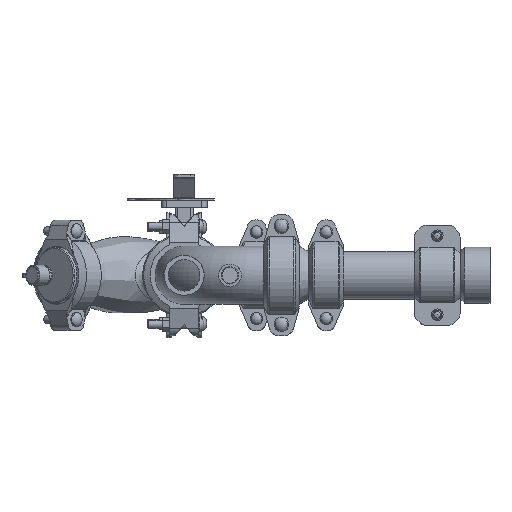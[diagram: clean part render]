
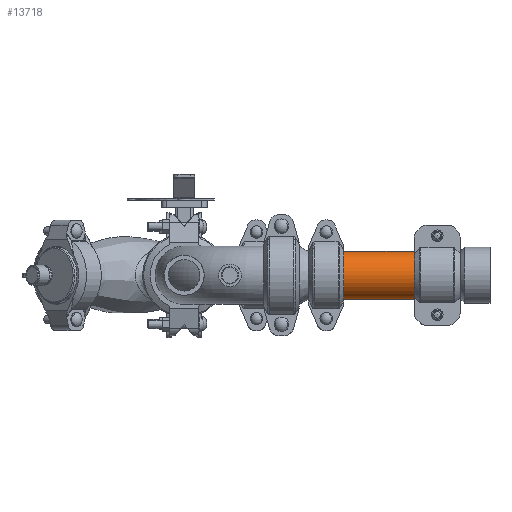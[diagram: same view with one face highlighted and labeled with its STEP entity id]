
A CAD part, front view. The second image highlights one B-rep face of the part: STEP entity #13718.
In plain terms, the highlighted cylindrical face has radius 36.513 mm (diameter 73.025 mm), a full revolution.
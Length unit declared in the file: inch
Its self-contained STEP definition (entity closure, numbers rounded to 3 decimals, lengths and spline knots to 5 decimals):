
#453=LINE('',#20739,#1441);
#1441=VECTOR('',#16501,1.4375);
#2429=CYLINDRICAL_SURFACE('',#14853,1.4375);
#2857=FACE_OUTER_BOUND('',#3601,.T.);
#3601=EDGE_LOOP('',(#8612,#8613,#8614,#8615,#8616,#8617));
#4505=CIRCLE('',#14851,1.4375);
#4506=CIRCLE('',#14852,1.4375);
#4507=CIRCLE('',#14854,1.4375);
#4508=CIRCLE('',#14855,1.4375);
#5279=VERTEX_POINT('',#20730);
#5280=VERTEX_POINT('',#20731);
#5281=VERTEX_POINT('',#20735);
#5282=VERTEX_POINT('',#20736);
#6619=EDGE_CURVE('',#5279,#5280,#4505,.T.);
#6620=EDGE_CURVE('',#5280,#5279,#4506,.T.);
#6621=EDGE_CURVE('',#5281,#5282,#4507,.T.);
#6622=EDGE_CURVE('',#5282,#5281,#4508,.T.);
#6623=EDGE_CURVE('',#5282,#5280,#453,.T.);
#8612=ORIENTED_EDGE('',*,*,#6621,.F.);
#8613=ORIENTED_EDGE('',*,*,#6622,.F.);
#8614=ORIENTED_EDGE('',*,*,#6623,.T.);
#8615=ORIENTED_EDGE('',*,*,#6620,.T.);
#8616=ORIENTED_EDGE('',*,*,#6619,.T.);
#8617=ORIENTED_EDGE('',*,*,#6623,.F.);
#13718=ADVANCED_FACE('',(#2857),#2429,.T.);
#14851=AXIS2_PLACEMENT_3D('',#20732,#16491,#16492);
#14852=AXIS2_PLACEMENT_3D('',#20733,#16493,#16494);
#14853=AXIS2_PLACEMENT_3D('',#20734,#16495,#16496);
#14854=AXIS2_PLACEMENT_3D('',#20737,#16497,#16498);
#14855=AXIS2_PLACEMENT_3D('',#20738,#16499,#16500);
#16491=DIRECTION('center_axis',(1.,0.,0.));
#16492=DIRECTION('ref_axis',(0.,0.,-1.));
#16493=DIRECTION('center_axis',(1.,0.,0.));
#16494=DIRECTION('ref_axis',(0.,0.,-1.));
#16495=DIRECTION('center_axis',(1.,0.,0.));
#16496=DIRECTION('ref_axis',(0.,1.,0.));
#16497=DIRECTION('center_axis',(1.,0.,0.));
#16498=DIRECTION('ref_axis',(0.,0.,-1.));
#16499=DIRECTION('center_axis',(1.,0.,0.));
#16500=DIRECTION('ref_axis',(0.,0.,-1.));
#16501=DIRECTION('',(-1.,0.,0.));
#20730=CARTESIAN_POINT('',(-2.1085,1.4375,0.));
#20731=CARTESIAN_POINT('',(-2.1085,-1.4375,0.));
#20732=CARTESIAN_POINT('Origin',(-2.1085,0.,0.));
#20733=CARTESIAN_POINT('Origin',(-2.1085,0.,0.));
#20734=CARTESIAN_POINT('Origin',(0.,0.,0.));
#20735=CARTESIAN_POINT('',(2.1085,1.4375,0.));
#20736=CARTESIAN_POINT('',(2.1085,-1.4375,0.));
#20737=CARTESIAN_POINT('Origin',(2.1085,0.,0.));
#20738=CARTESIAN_POINT('Origin',(2.1085,0.,0.));
#20739=CARTESIAN_POINT('',(0.,-1.4375,0.));
